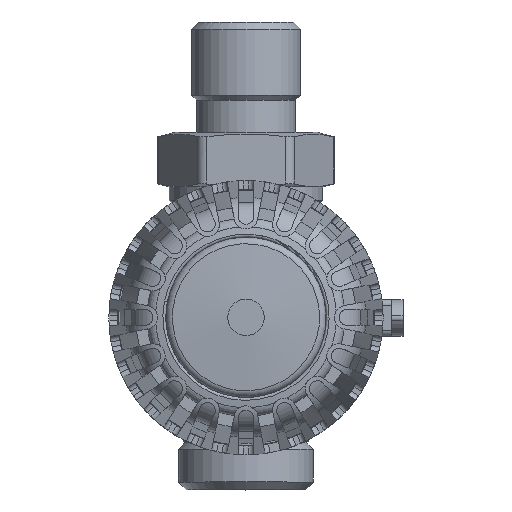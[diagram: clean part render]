
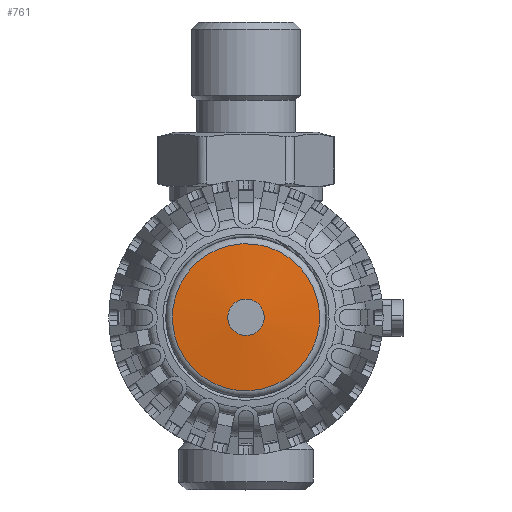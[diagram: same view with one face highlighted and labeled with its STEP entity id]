
A CAD part, top view. The second image highlights one B-rep face of the part: STEP entity #761.
In plain terms, the highlighted toroidal (fillet/blend) face has major radius 3.5 mm and minor radius 64.918 mm.
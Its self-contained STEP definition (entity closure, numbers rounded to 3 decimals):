
#761=ADVANCED_FACE('',(#6223,#6225),#6227,.T.);
#6223=FACE_OUTER_BOUND('',#6224,.T.);
#6224=EDGE_LOOP('',(#17402));
#6225=FACE_OUTER_BOUND('',#6226,.T.);
#6226=EDGE_LOOP('',(#17403));
#6227=DEGENERATE_TOROIDAL_SURFACE('',#6228,3.5,64.918,.T.);
#6228=AXIS2_PLACEMENT_3D('',#6229,#6230,#6231);
#6229=CARTESIAN_POINT('',(0.,0.,42.282));
#6230=DIRECTION('',(0.,0.,-1.));
#6231=DIRECTION('',(0.957,-0.29,0.));
#17402=ORIENTED_EDGE('',*,*,#22050,.T.);
#17403=ORIENTED_EDGE('',*,*,#22063,.T.);
#22050=EDGE_CURVE('',#26349,#26349,#26350,.T.);
#22063=EDGE_CURVE('',#26375,#26375,#26376,.T.);
#26349=VERTEX_POINT('',#44433);
#26350=CIRCLE('',#44434,14.146);
#26375=VERTEX_POINT('',#44498);
#26376=CIRCLE('',#44499,3.5);
#44433=CARTESIAN_POINT('',(13.537,-4.108,106.321));
#44434=AXIS2_PLACEMENT_3D('',#44435,#44436,#44437);
#44435=CARTESIAN_POINT('',(0.,0.,106.321));
#44436=DIRECTION('',(0.,0.,1.));
#44437=DIRECTION('',(0.957,-0.29,0.));
#44498=CARTESIAN_POINT('',(3.349,-1.016,107.2));
#44499=AXIS2_PLACEMENT_3D('',#44500,#44501,#44502);
#44500=CARTESIAN_POINT('',(0.,0.,107.2));
#44501=DIRECTION('',(0.,0.,-1.));
#44502=DIRECTION('',(0.957,-0.29,0.));
